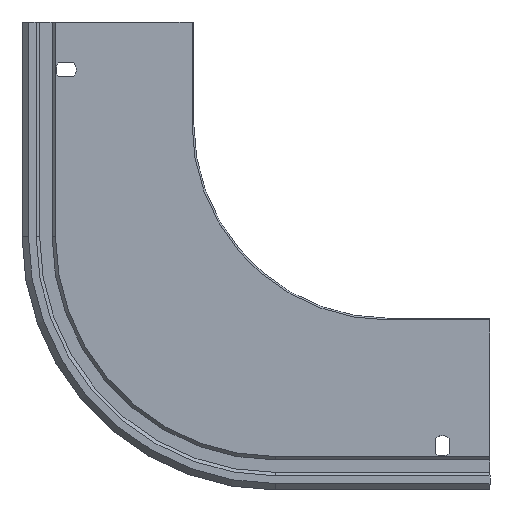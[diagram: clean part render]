
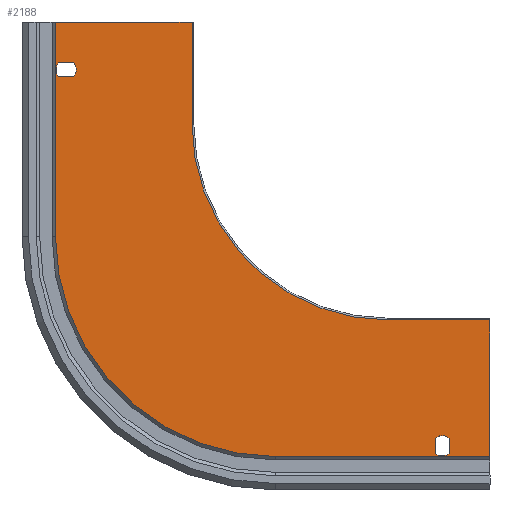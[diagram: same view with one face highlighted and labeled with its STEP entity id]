
A CAD part, left-side view. The second image highlights one B-rep face of the part: STEP entity #2188.
In plain terms, the highlighted planar face has unit normal (-1, 0, 0).
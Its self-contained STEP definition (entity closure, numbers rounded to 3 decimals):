
#87 = CARTESIAN_POINT ( 'NONE',  ( 0., 244.728, -223.2 ) ) ;
#133 = CARTESIAN_POINT ( 'NONE',  ( 0., 28., -12. ) ) ;
#138 = ORIENTED_EDGE ( 'NONE', *, *, #2149, .T. ) ;
#196 = LINE ( 'NONE', #1937, #3411 ) ;
#201 = EDGE_CURVE ( 'NONE', #3830, #3021, #5651, .T. ) ;
#217 = AXIS2_PLACEMENT_3D ( 'NONE', #3168, #1847, #872 ) ;
#237 = AXIS2_PLACEMENT_3D ( 'NONE', #2911, #2042, #3418 ) ;
#270 = EDGE_CURVE ( 'NONE', #2693, #2550, #4779, .T. ) ;
#272 = ORIENTED_EDGE ( 'NONE', *, *, #4396, .T. ) ;
#284 = CARTESIAN_POINT ( 'NONE',  ( 0., 0., 0.331 ) ) ;
#436 = DIRECTION ( 'NONE',  ( 0., 0., 1. ) ) ;
#452 = EDGE_CURVE ( 'NONE', #4656, #3396, #3598, .T. ) ;
#498 = DIRECTION ( 'NONE',  ( 0., 0., -1. ) ) ;
#515 = VERTEX_POINT ( 'NONE', #2379 ) ;
#519 = VECTOR ( 'NONE', #532, 1000. ) ;
#532 = DIRECTION ( 'NONE',  ( 0., -1., 0. ) ) ;
#555 = VERTEX_POINT ( 'NONE', #1474 ) ;
#707 = DIRECTION ( 'NONE',  ( 0., 1., 0. ) ) ;
#740 = LINE ( 'NONE', #2523, #2759 ) ;
#753 = ORIENTED_EDGE ( 'NONE', *, *, #2391, .F. ) ;
#777 = DIRECTION ( 'NONE',  ( 0., -1., 0. ) ) ;
#837 = AXIS2_PLACEMENT_3D ( 'NONE', #3631, #4109, #3658 ) ;
#838 = CARTESIAN_POINT ( 'NONE',  ( 0., 174.2, -255.2 ) ) ;
#872 = DIRECTION ( 'NONE',  ( 0., 0., -1. ) ) ;
#961 = CARTESIAN_POINT ( 'NONE',  ( 0., 175.2, -255.2 ) ) ;
#963 = DIRECTION ( 'NONE',  ( -1., 0., 0. ) ) ;
#1012 = DIRECTION ( 'NONE',  ( 0., 0., -1. ) ) ;
#1053 = ORIENTED_EDGE ( 'NONE', *, *, #5161, .T. ) ;
#1095 = CIRCLE ( 'NONE', #3604, 6. ) ;
#1125 = EDGE_LOOP ( 'NONE', ( #3916, #1476, #4714, #2157, #5334, #2975, #753, #5720 ) ) ;
#1128 = CIRCLE ( 'NONE', #837, 6. ) ;
#1146 = ORIENTED_EDGE ( 'NONE', *, *, #2318, .T. ) ;
#1197 = FACE_BOUND ( 'NONE', #2300, .T. ) ;
#1209 = EDGE_CURVE ( 'NONE', #1948, #2236, #3014, .T. ) ;
#1258 = DIRECTION ( 'NONE',  ( 0., 0., -1. ) ) ;
#1318 = EDGE_CURVE ( 'NONE', #555, #2565, #5095, .T. ) ;
#1368 = CARTESIAN_POINT ( 'NONE',  ( 0., 255.531, -255.2 ) ) ;
#1373 = ORIENTED_EDGE ( 'NONE', *, *, #201, .T. ) ;
#1416 = CARTESIAN_POINT ( 'NONE',  ( 0., 126., 0.331 ) ) ;
#1417 = VECTOR ( 'NONE', #3427, 1000. ) ;
#1472 = LINE ( 'NONE', #5527, #5615 ) ;
#1474 = CARTESIAN_POINT ( 'NONE',  ( 0., 253.672, -231.2 ) ) ;
#1476 = ORIENTED_EDGE ( 'NONE', *, *, #2233, .F. ) ;
#1582 = VECTOR ( 'NONE', #777, 1000. ) ;
#1715 = FACE_BOUND ( 'NONE', #4408, .T. ) ;
#1809 = CARTESIAN_POINT ( 'NONE',  ( 0., 175.2, -195.2 ) ) ;
#1847 = DIRECTION ( 'NONE',  ( 1., 0., 0. ) ) ;
#1937 = CARTESIAN_POINT ( 'NONE',  ( 0., 175.2, -195.2 ) ) ;
#1948 = VERTEX_POINT ( 'NONE', #4742 ) ;
#2042 = DIRECTION ( 'NONE',  ( -1., 0., 0. ) ) ;
#2149 = EDGE_CURVE ( 'NONE', #2565, #3830, #5366, .T. ) ;
#2157 = ORIENTED_EDGE ( 'NONE', *, *, #4949, .T. ) ;
#2188 = ADVANCED_FACE ( 'NONE', ( #1715, #1197, #3126 ), #3037, .F. ) ;
#2233 = EDGE_CURVE ( 'NONE', #1948, #4024, #5464, .T. ) ;
#2236 = VERTEX_POINT ( 'NONE', #3629 ) ;
#2262 = DIRECTION ( 'NONE',  ( 0., 0., 1. ) ) ;
#2300 = EDGE_LOOP ( 'NONE', ( #272, #4502, #138, #1373 ) ) ;
#2317 = CARTESIAN_POINT ( 'NONE',  ( 0., 28., -6. ) ) ;
#2318 = EDGE_CURVE ( 'NONE', #2511, #515, #1095, .T. ) ;
#2365 = VERTEX_POINT ( 'NONE', #1809 ) ;
#2379 = CARTESIAN_POINT ( 'NONE',  ( 0., 32., -10.472 ) ) ;
#2391 = EDGE_CURVE ( 'NONE', #2550, #2365, #4925, .T. ) ;
#2511 = VERTEX_POINT ( 'NONE', #133 ) ;
#2523 = CARTESIAN_POINT ( 'NONE',  ( 0., 0., -231.2 ) ) ;
#2550 = VERTEX_POINT ( 'NONE', #2676 ) ;
#2565 = VERTEX_POINT ( 'NONE', #4425 ) ;
#2566 = LINE ( 'NONE', #5854, #3425 ) ;
#2625 = DIRECTION ( 'NONE',  ( 0., 0., -1. ) ) ;
#2676 = CARTESIAN_POINT ( 'NONE',  ( 0., 60., -80. ) ) ;
#2693 = VERTEX_POINT ( 'NONE', #2817 ) ;
#2694 = ORIENTED_EDGE ( 'NONE', *, *, #5100, .T. ) ;
#2759 = VECTOR ( 'NONE', #707, 1000. ) ;
#2799 = DIRECTION ( 'NONE',  ( 0., 0., -1. ) ) ;
#2817 = CARTESIAN_POINT ( 'NONE',  ( 0., 0., -80. ) ) ;
#2911 = CARTESIAN_POINT ( 'NONE',  ( 0., 60., -195.2 ) ) ;
#2961 = VERTEX_POINT ( 'NONE', #3084 ) ;
#2975 = ORIENTED_EDGE ( 'NONE', *, *, #3333, .F. ) ;
#3014 = CIRCLE ( 'NONE', #4437, 129.531 ) ;
#3021 = VERTEX_POINT ( 'NONE', #5268 ) ;
#3037 = PLANE ( 'NONE',  #3213 ) ;
#3084 = CARTESIAN_POINT ( 'NONE',  ( 0., 24., -1.528 ) ) ;
#3111 = VERTEX_POINT ( 'NONE', #4504 ) ;
#3126 = FACE_OUTER_BOUND ( 'NONE', #1125, .T. ) ;
#3168 = CARTESIAN_POINT ( 'NONE',  ( 0., 249.2, -227.2 ) ) ;
#3213 = AXIS2_PLACEMENT_3D ( 'NONE', #4843, #4404, #1258 ) ;
#3333 = EDGE_CURVE ( 'NONE', #2365, #4656, #196, .T. ) ;
#3336 = CARTESIAN_POINT ( 'NONE',  ( 0., 24., -10.472 ) ) ;
#3396 = VERTEX_POINT ( 'NONE', #1368 ) ;
#3411 = VECTOR ( 'NONE', #1012, 1000. ) ;
#3412 = DIRECTION ( 'NONE',  ( 0., 1., 0. ) ) ;
#3418 = DIRECTION ( 'NONE',  ( 0., 0., 1. ) ) ;
#3425 = VECTOR ( 'NONE', #2625, 1000. ) ;
#3427 = DIRECTION ( 'NONE',  ( 0., 0., -1. ) ) ;
#3429 = VECTOR ( 'NONE', #436, 1000. ) ;
#3475 = AXIS2_PLACEMENT_3D ( 'NONE', #4217, #5054, #498 ) ;
#3598 = LINE ( 'NONE', #838, #5089 ) ;
#3604 = AXIS2_PLACEMENT_3D ( 'NONE', #2317, #4612, #2799 ) ;
#3615 = CIRCLE ( 'NONE', #5509, 6. ) ;
#3629 = CARTESIAN_POINT ( 'NONE',  ( 0., 255.531, -129.2 ) ) ;
#3631 = CARTESIAN_POINT ( 'NONE',  ( 0., 28., -6. ) ) ;
#3658 = DIRECTION ( 'NONE',  ( 0., 0., -1. ) ) ;
#3830 = VERTEX_POINT ( 'NONE', #87 ) ;
#3846 = CARTESIAN_POINT ( 'NONE',  ( 0., 24., 0. ) ) ;
#3870 = VERTEX_POINT ( 'NONE', #3336 ) ;
#3916 = ORIENTED_EDGE ( 'NONE', *, *, #5914, .F. ) ;
#4024 = VERTEX_POINT ( 'NONE', #284 ) ;
#4047 = VECTOR ( 'NONE', #3412, 1000. ) ;
#4109 = DIRECTION ( 'NONE',  ( 1., 0., 0. ) ) ;
#4217 = CARTESIAN_POINT ( 'NONE',  ( 0., 249.2, -227.2 ) ) ;
#4396 = EDGE_CURVE ( 'NONE', #3021, #555, #740, .T. ) ;
#4404 = DIRECTION ( 'NONE',  ( 1., 0., 0. ) ) ;
#4408 = EDGE_LOOP ( 'NONE', ( #1053, #5351, #4940, #2694, #1146 ) ) ;
#4425 = CARTESIAN_POINT ( 'NONE',  ( 0., 253.672, -223.2 ) ) ;
#4437 = AXIS2_PLACEMENT_3D ( 'NONE', #4500, #963, #2262 ) ;
#4500 = CARTESIAN_POINT ( 'NONE',  ( 0., 126., -129.2 ) ) ;
#4502 = ORIENTED_EDGE ( 'NONE', *, *, #1318, .T. ) ;
#4504 = CARTESIAN_POINT ( 'NONE',  ( 0., 32., -1.528 ) ) ;
#4513 = LINE ( 'NONE', #5456, #3429 ) ;
#4612 = DIRECTION ( 'NONE',  ( 1., 0., 0. ) ) ;
#4656 = VERTEX_POINT ( 'NONE', #961 ) ;
#4702 = LINE ( 'NONE', #3846, #1417 ) ;
#4714 = ORIENTED_EDGE ( 'NONE', *, *, #1209, .T. ) ;
#4742 = CARTESIAN_POINT ( 'NONE',  ( 0., 126., 0.331 ) ) ;
#4779 = LINE ( 'NONE', #4807, #4047 ) ;
#4787 = EDGE_CURVE ( 'NONE', #2961, #3870, #4702, .T. ) ;
#4807 = CARTESIAN_POINT ( 'NONE',  ( 0., 0., -80. ) ) ;
#4843 = CARTESIAN_POINT ( 'NONE',  ( 0., 0., 0. ) ) ;
#4899 = CARTESIAN_POINT ( 'NONE',  ( 0., 0., -223.2 ) ) ;
#4904 = DIRECTION ( 'NONE',  ( 0., 1., 0. ) ) ;
#4925 = CIRCLE ( 'NONE', #237, 115.2 ) ;
#4940 = ORIENTED_EDGE ( 'NONE', *, *, #4787, .T. ) ;
#4949 = EDGE_CURVE ( 'NONE', #2236, #3396, #2566, .T. ) ;
#5054 = DIRECTION ( 'NONE',  ( 1., 0., 0. ) ) ;
#5089 = VECTOR ( 'NONE', #4904, 1000. ) ;
#5095 = CIRCLE ( 'NONE', #217, 6. ) ;
#5100 = EDGE_CURVE ( 'NONE', #3870, #2511, #3615, .T. ) ;
#5161 = EDGE_CURVE ( 'NONE', #515, #3111, #4513, .T. ) ;
#5268 = CARTESIAN_POINT ( 'NONE',  ( 0., 244.728, -231.2 ) ) ;
#5276 = DIRECTION ( 'NONE',  ( 0., 0., -1. ) ) ;
#5334 = ORIENTED_EDGE ( 'NONE', *, *, #452, .F. ) ;
#5337 = DIRECTION ( 'NONE',  ( 1., 0., 0. ) ) ;
#5351 = ORIENTED_EDGE ( 'NONE', *, *, #5764, .T. ) ;
#5366 = LINE ( 'NONE', #4899, #1582 ) ;
#5456 = CARTESIAN_POINT ( 'NONE',  ( 0., 32., 0. ) ) ;
#5464 = LINE ( 'NONE', #1416, #519 ) ;
#5509 = AXIS2_PLACEMENT_3D ( 'NONE', #5849, #5337, #5276 ) ;
#5527 = CARTESIAN_POINT ( 'NONE',  ( 0., 0., 0. ) ) ;
#5583 = DIRECTION ( 'NONE',  ( 0., 0., -1. ) ) ;
#5615 = VECTOR ( 'NONE', #5583, 1000. ) ;
#5651 = CIRCLE ( 'NONE', #3475, 6. ) ;
#5720 = ORIENTED_EDGE ( 'NONE', *, *, #270, .F. ) ;
#5764 = EDGE_CURVE ( 'NONE', #3111, #2961, #1128, .T. ) ;
#5849 = CARTESIAN_POINT ( 'NONE',  ( 0., 28., -6. ) ) ;
#5854 = CARTESIAN_POINT ( 'NONE',  ( 0., 255.531, -129.2 ) ) ;
#5914 = EDGE_CURVE ( 'NONE', #4024, #2693, #1472, .T. ) ;
